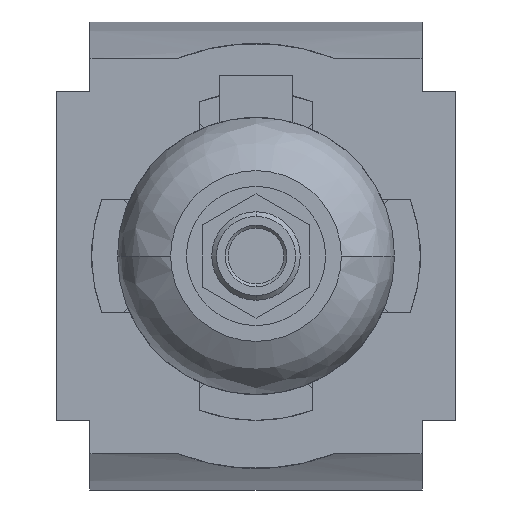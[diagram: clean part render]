
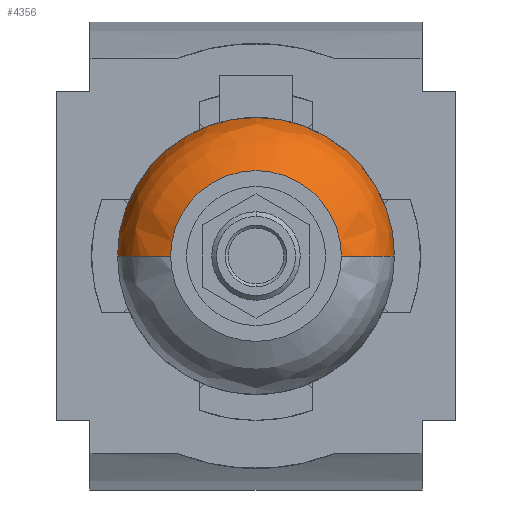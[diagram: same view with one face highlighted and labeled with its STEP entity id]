
A CAD part, front view. The second image highlights one B-rep face of the part: STEP entity #4356.
In plain terms, the highlighted free-form (B-spline) face has degree [3, 3] with [7, 4] control points.
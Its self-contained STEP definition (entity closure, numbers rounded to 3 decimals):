
#3312=CARTESIAN_POINT('',(0.,-111.947,0.));
#3313=DIRECTION('',(0.,-1.,0.));
#3314=DIRECTION('',(1.,0.,0.));
#3315=AXIS2_PLACEMENT_3D('',#3312,#3313,#3314);
#3317=CARTESIAN_POINT('',(9.9,-100.5,0.));
#3318=DIRECTION('',(0.,0.,1.));
#3319=DIRECTION('',(0.3,-0.954,0.));
#3320=AXIS2_PLACEMENT_3D('',#3317,#3318,#3319);
#3322=CARTESIAN_POINT('',(-9.9,-100.5,0.));
#3323=DIRECTION('',(0.,0.,-1.));
#3324=DIRECTION('',(-0.3,-0.954,0.));
#3325=AXIS2_PLACEMENT_3D('',#3322,#3323,#3324);
#3399=CARTESIAN_POINT('',(0.,-100.5,0.));
#3400=DIRECTION('',(0.,-1.,0.));
#3401=DIRECTION('',(1.,0.,0.));
#3402=AXIS2_PLACEMENT_3D('',#3399,#3400,#3401);
#4021=CARTESIAN_POINT('',(13.5,-111.947,0.));
#4023=VERTEX_POINT('',#4021);
#4024=CARTESIAN_POINT('',(21.9,-100.5,0.));
#4025=VERTEX_POINT('',#4024);
#4029=CARTESIAN_POINT('',(-13.5,-111.947,0.));
#4031=VERTEX_POINT('',#4029);
#4032=CARTESIAN_POINT('',(-21.9,-100.5,0.));
#4033=VERTEX_POINT('',#4032);
#4318=CARTESIAN_POINT('',(21.853,-100.196,
-1.375));
#4319=CARTESIAN_POINT('',(21.997,-105.881,
-1.384));
#4320=CARTESIAN_POINT('',(18.639,-110.467,
-1.173));
#4321=CARTESIAN_POINT('',(13.183,-112.035,
-0.829));
#4322=CARTESIAN_POINT('',(22.699,-100.196,12.073));
#4323=CARTESIAN_POINT('',(22.848,-105.881,12.153));
#4324=CARTESIAN_POINT('',(19.36,-110.467,10.298));
#4325=CARTESIAN_POINT('',(13.693,-112.035,7.283));
#4326=CARTESIAN_POINT('',(13.475,-100.196,21.896));
#4327=CARTESIAN_POINT('',(13.563,-105.881,22.04));
#4328=CARTESIAN_POINT('',(11.493,-110.467,18.676));
#4329=CARTESIAN_POINT('',(8.129,-112.035,13.209));
#4330=CARTESIAN_POINT('',(0.,-100.196,21.896));
#4331=CARTESIAN_POINT('',(0.,-105.881,22.04));
#4332=CARTESIAN_POINT('',(0.,-110.467,18.676));
#4333=CARTESIAN_POINT('',(0.,-112.035,13.209));
#4334=CARTESIAN_POINT('',(-13.475,-100.196,
21.896));
#4335=CARTESIAN_POINT('',(-13.563,-105.881,
22.04));
#4336=CARTESIAN_POINT('',(-11.493,-110.467,
18.676));
#4337=CARTESIAN_POINT('',(-8.129,-112.035,
13.209));
#4338=CARTESIAN_POINT('',(-22.699,-100.196,
12.073));
#4339=CARTESIAN_POINT('',(-22.848,-105.881,
12.153));
#4340=CARTESIAN_POINT('',(-19.36,-110.467,
10.298));
#4341=CARTESIAN_POINT('',(-13.693,-112.035,
7.283));
#4342=CARTESIAN_POINT('',(-21.853,-100.196,
-1.375));
#4343=CARTESIAN_POINT('',(-21.997,-105.881,
-1.384));
#4344=CARTESIAN_POINT('',(-18.639,-110.467,
-1.173));
#4345=CARTESIAN_POINT('',(-13.183,-112.035,
-0.829));
#4346=(BOUNDED_SURFACE()B_SPLINE_SURFACE(3,3,((#4318,#4319,#4320,#4321),(#4322,
#4323,#4324,#4325),(#4326,#4327,#4328,#4329),(#4330,#4331,#4332,#4333),(#4334,
#4335,#4336,#4337),(#4338,#4339,#4340,#4341),(#4342,#4343,#4344,#4345)),
.UNSPECIFIED.,.F.,.F.,.F.)B_SPLINE_SURFACE_WITH_KNOTS((4,3,4),(4,4),(0.,1.,
2.),(0.,1.),.UNSPECIFIED.)GEOMETRIC_REPRESENTATION_ITEM()RATIONAL_B_SPLINE_SURFACE(((1.326,1.141,1.141,1.326),(
1.047,0.901,0.901,1.047),(
1.047,0.901,0.901,1.047),(
1.326,1.141,1.141,1.326),(
1.047,0.901,0.901,1.047),(
1.047,0.901,0.901,1.047),(
1.326,1.141,1.141,1.326)))REPRESENTATION_ITEM('')SURFACE());
#4348=ORIENTED_EDGE('',*,*,#4347,.F.);
#4349=ORIENTED_EDGE('',*,*,#4313,.T.);
#4351=ORIENTED_EDGE('',*,*,#4350,.T.);
#4353=ORIENTED_EDGE('',*,*,#4352,.F.);
#4354=EDGE_LOOP('',(#4348,#4349,#4351,#4353));
#4355=FACE_OUTER_BOUND('',#4354,.F.);
#3316=CIRCLE('',#3315,13.5);
#3321=CIRCLE('',#3320,12.);
#3326=CIRCLE('',#3325,12.);
#3403=CIRCLE('',#3402,21.9);
#4313=EDGE_CURVE('',#4023,#4031,#3316,.T.);
#4347=EDGE_CURVE('',#4023,#4025,#3321,.T.);
#4350=EDGE_CURVE('',#4031,#4033,#3326,.T.);
#4352=EDGE_CURVE('',#4025,#4033,#3403,.T.);
#4356=ADVANCED_FACE('',(#4355),#4346,.T.);
